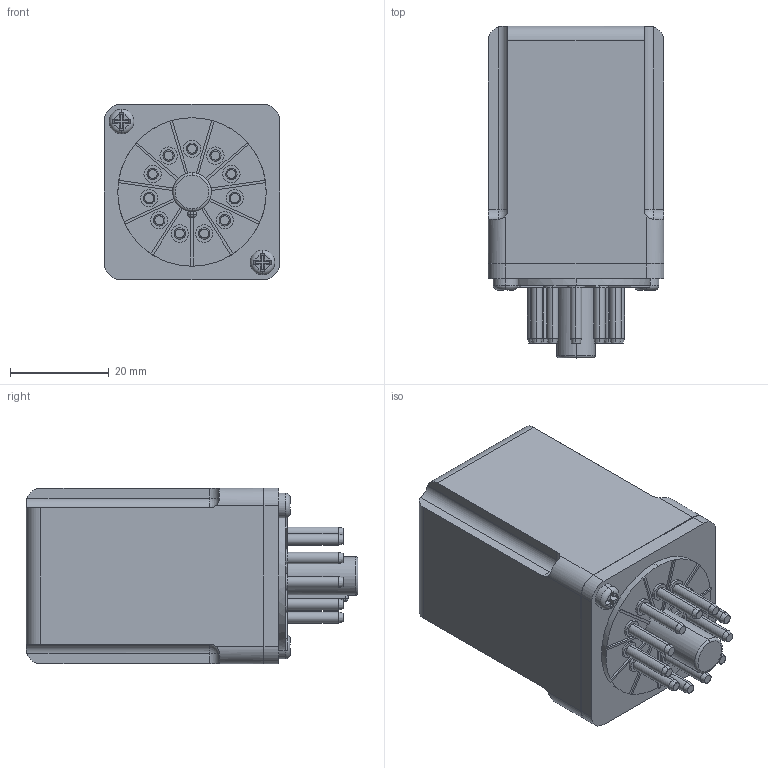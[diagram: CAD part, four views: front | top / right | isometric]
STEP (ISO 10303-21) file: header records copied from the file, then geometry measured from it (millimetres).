
FILE_DESCRIPTION (( 'STEP AP203' ), '1' );
FILE_NAME ('OP3RC3-11.STEP', '2019-07-05T17:34:11', ( '' ), ( '' ), 'SwSTEP 2.0', 'SolidWorks 2012', '' );
FILE_SCHEMA (( 'CONFIG_CONTROL_DESIGN' ));
Length unit declared in the file: millimetre
Products named in the file (1): OP3RC3-11
Bounding box: 35.5 x 67.1 x 35.5 mm (x, y, z)
Volume: 63879.9 mm3; surface area: 13459.5 mm2
Topology: 1 solids, 1 shells, 246 faces, 611 edges, 388 vertices
Faces by surface type: plane 129, cylinder 83, cone 22, torus 6, sphere 6
Entity records: 7482 total; most frequent: CARTESIAN_POINT 1450, DIRECTION 1299, ORIENTED_EDGE 1210, EDGE_CURVE 605, AXIS2_PLACEMENT_3D 493, VERTEX_POINT 388, VECTOR 313, LINE 313
